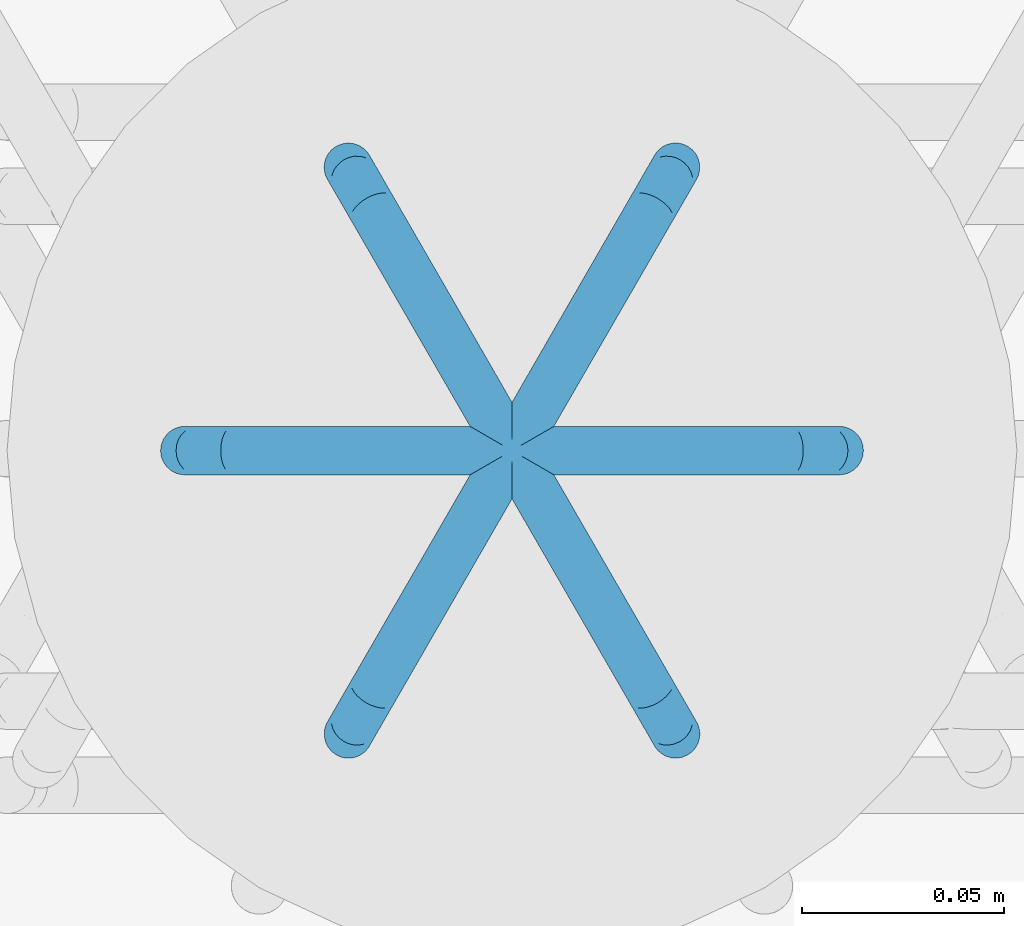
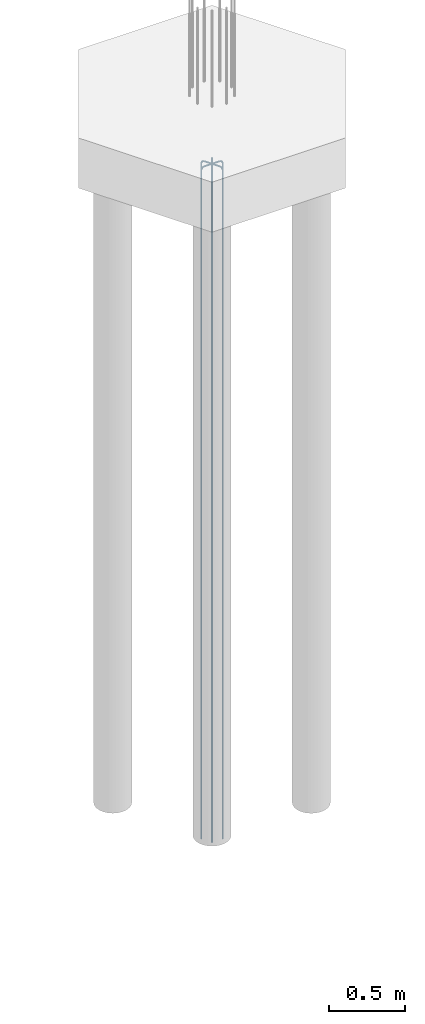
# One storey, part 5 of 23: 1 reinforcing bar.
"""IFC2X3 building model written with IfcOpenShell, lengths in metres."""

from ifc_helpers import new_model, entity, si_unit, direction, frame, origin, place, context, subcontext, project, spatial, shape, source, transform, mapped, element, save


model = new_model("IFC2X3")

# Units and contexts
model_context = context("Model", 3, precision=0.0, world=origin(), true_north=direction((0.0, 1.0)))
plan_context = context("Plan", 3, precision=0.0, world=origin(), true_north=direction((0.0, 1.0)))
body_context = subcontext(model_context, "Body", "Model", "MODEL_VIEW", scale=1.0)
ifc_project = project(units=[si_unit("LENGTHUNIT", "METRE"), si_unit("AREAUNIT", "SQUARE_METRE"), si_unit("VOLUMEUNIT", "CUBIC_METRE"), si_unit("PLANEANGLEUNIT", "RADIAN"), si_unit("THERMODYNAMICTEMPERATUREUNIT", "DEGREE_CELSIUS"), si_unit("FORCEUNIT", "NEWTON"), si_unit("MASSUNIT", "GRAM", prefix="KILO")], contexts=[model_context, plan_context])

# Site, building, storey
placement = place(None, origin())
site = spatial("IfcSite", under=ifc_project, at=placement, Name="Default Site", CompositionType="ELEMENT")
building = spatial("IfcBuilding", under=site, at=placement, Name="Default Building", CompositionType="ELEMENT")
storey_placement = place(placement, frame((0.0, 0.0, 0.0), z_axis=(1.0, 0.0, 0.0), x_axis=(0.0, 0.0, 1.0)))
storey = spatial("IfcBuildingStorey", under=building, at=storey_placement, Name="Piano 0", CompositionType="ELEMENT", Elevation=0.0)

# Reinforcing bar
shared_shape_1 = source(origin(), body_context, None, "AdvancedSweptSolid", [
    entity("IfcSweptDiskSolid", entity("IfcCompositeCurve", [entity("IfcCompositeCurveSegment", "CONTINUOUS", True, entity("IfcPolyline", [entity("IfcCartesianPoint", [0.0, 0.0, 0.0]), entity("IfcCartesianPoint", [-0.096, 0.0, 0.0]), entity("IfcCartesianPoint", [-0.108, 0.0, -0.003215]), entity("IfcCartesianPoint", [-0.116785, 0.0, -0.012]), entity("IfcCartesianPoint", [-0.12, 0.0, -0.024]), entity("IfcCartesianPoint", [-0.12, 0.0, -5.366])]))], False), 0.006, 0.0, 0.0),
])
shared_shape_2 = source(origin(), body_context, None, "AdvancedSweptSolid", [
    entity("IfcSweptDiskSolid", entity("IfcCompositeCurve", [entity("IfcCompositeCurveSegment", "CONTINUOUS", True, entity("IfcPolyline", [entity("IfcCartesianPoint", [0.0, 0.0, 0.0]), entity("IfcCartesianPoint", [-0.096, 0.0, 0.0]), entity("IfcCartesianPoint", [-0.108, 0.0, -0.003215]), entity("IfcCartesianPoint", [-0.116785, 0.0, -0.012]), entity("IfcCartesianPoint", [-0.12, 0.0, -0.024]), entity("IfcCartesianPoint", [-0.12, 0.0, -5.366])]))], False), 0.006, 0.0, 0.0),
])
shared_shape_3 = source(origin(), body_context, None, "AdvancedSweptSolid", [
    entity("IfcSweptDiskSolid", entity("IfcCompositeCurve", [entity("IfcCompositeCurveSegment", "CONTINUOUS", True, entity("IfcPolyline", [entity("IfcCartesianPoint", [0.0, 0.0, 0.0]), entity("IfcCartesianPoint", [-0.096, 0.0, 0.0]), entity("IfcCartesianPoint", [-0.108, 0.0, -0.003215]), entity("IfcCartesianPoint", [-0.116785, 0.0, -0.012]), entity("IfcCartesianPoint", [-0.12, 0.0, -0.024]), entity("IfcCartesianPoint", [-0.12, 0.0, -5.366])]))], False), 0.006, 0.0, 0.0),
])
shared_shape_4 = source(origin(), body_context, None, "AdvancedSweptSolid", [
    entity("IfcSweptDiskSolid", entity("IfcCompositeCurve", [entity("IfcCompositeCurveSegment", "CONTINUOUS", True, entity("IfcPolyline", [entity("IfcCartesianPoint", [0.0, 0.0, 0.0]), entity("IfcCartesianPoint", [-0.096, 0.0, 0.0]), entity("IfcCartesianPoint", [-0.108, 0.0, -0.003215]), entity("IfcCartesianPoint", [-0.116785, 0.0, -0.012]), entity("IfcCartesianPoint", [-0.12, 0.0, -0.024]), entity("IfcCartesianPoint", [-0.12, 0.0, -5.366])]))], False), 0.006, 0.0, 0.0),
])
shared_shape_5 = source(origin(), body_context, None, "AdvancedSweptSolid", [
    entity("IfcSweptDiskSolid", entity("IfcCompositeCurve", [entity("IfcCompositeCurveSegment", "CONTINUOUS", True, entity("IfcPolyline", [entity("IfcCartesianPoint", [0.0, 0.0, 0.0]), entity("IfcCartesianPoint", [-0.096, 0.0, 0.0]), entity("IfcCartesianPoint", [-0.108, 0.0, -0.003215]), entity("IfcCartesianPoint", [-0.116785, 0.0, -0.012]), entity("IfcCartesianPoint", [-0.12, 0.0, -0.024]), entity("IfcCartesianPoint", [-0.12, 0.0, -5.366])]))], False), 0.006, 0.0, 0.0),
])
shared_shape_6 = source(origin(), body_context, None, "AdvancedSweptSolid", [
    entity("IfcSweptDiskSolid", entity("IfcCompositeCurve", [entity("IfcCompositeCurveSegment", "CONTINUOUS", True, entity("IfcPolyline", [entity("IfcCartesianPoint", [0.0, 0.0, 0.0]), entity("IfcCartesianPoint", [-0.096, 0.0, 0.0]), entity("IfcCartesianPoint", [-0.108, 0.0, -0.003215]), entity("IfcCartesianPoint", [-0.116785, 0.0, -0.012]), entity("IfcCartesianPoint", [-0.12, 0.0, -0.024]), entity("IfcCartesianPoint", [-0.12, 0.0, -5.366])]))], False), 0.006, 0.0, 0.0),
])
element("IfcReinforcingBar", 1, at=placement, inside=storey, Name="Arm Principale; Palo:1 Filo:3 [Piano:0]", BarLength=32.85162, BarRole="MAIN", BarSurface="TEXTURED", NominalDiameter=0.012, shapes=[
    shape(body_context, None, "MappedRepresentation", [mapped(shared_shape_1, transform((7.664, -0.65, -0.034))), mapped(shared_shape_2, transform((7.6445, -0.616225, -0.034), x_axis=(0.5, 0.866025, 0.0), y_axis=(-0.866025, 0.5, 0.0))), mapped(shared_shape_3, transform((7.6055, -0.616225, -0.034), x_axis=(-0.5, 0.866025, 0.0), y_axis=(-0.866025, -0.5, 0.0))), mapped(shared_shape_4, transform((7.586, -0.65, -0.034), x_axis=(-1.0, 0.0, 0.0), y_axis=(0.0, -1.0, 0.0))), mapped(shared_shape_5, transform((7.6055, -0.683775, -0.034), x_axis=(-0.5, -0.866025, 0.0), y_axis=(0.866025, -0.5, 0.0))), mapped(shared_shape_6, transform((7.6445, -0.683775, -0.034), x_axis=(0.5, -0.866025, 0.0), y_axis=(0.866025, 0.5, 0.0)))]),
])

save(model, "model.ifc")
